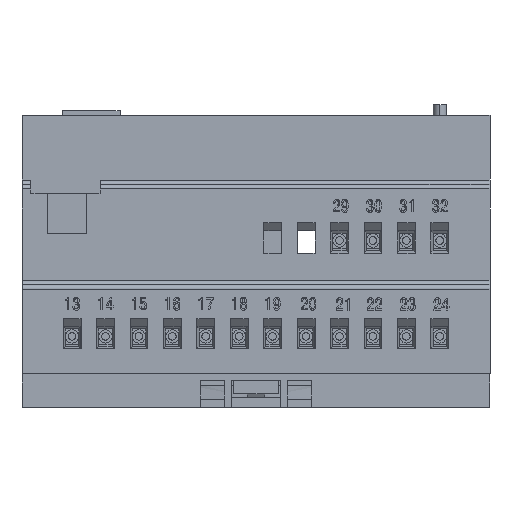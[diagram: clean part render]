
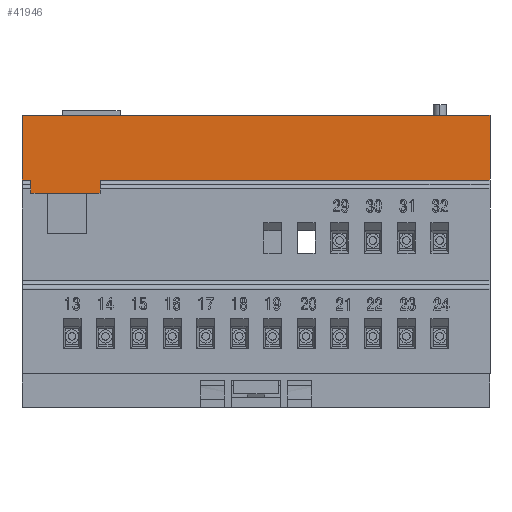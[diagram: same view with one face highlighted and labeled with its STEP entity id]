
A CAD part, front view. The second image highlights one B-rep face of the part: STEP entity #41946.
In plain terms, the highlighted planar face has unit normal (0, -1, 0) as drawn and (1, 0, 0) by its records, which use the part's own axes.
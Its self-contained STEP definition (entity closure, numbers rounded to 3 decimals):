
#4325 = ORIENTED_EDGE ( 'NONE', *, *, #8833, .T. ) ;
#4521 = CARTESIAN_POINT ( 'NONE',  ( 67.5, 44.5, -2. ) ) ;
#7913 = VERTEX_POINT ( 'NONE', #146349 ) ;
#8833 = EDGE_CURVE ( 'NONE', #22885, #210432, #190936, .T. ) ;
#16549 = CARTESIAN_POINT ( 'NONE',  ( 67.5, 40.5, -2. ) ) ;
#16672 = LINE ( 'NONE', #30494, #185029 ) ;
#17190 = CARTESIAN_POINT ( 'NONE',  ( 67.5, 40.5, -17.5 ) ) ;
#17633 = DIRECTION ( 'NONE',  ( 0., 1., 0. ) ) ;
#17674 = ORIENTED_EDGE ( 'NONE', *, *, #137974, .F. ) ;
#17923 = EDGE_CURVE ( 'NONE', #7913, #22885, #16672, .T. ) ;
#22885 = VERTEX_POINT ( 'NONE', #163978 ) ;
#27209 = VECTOR ( 'NONE', #124254, 1000. ) ;
#29744 = ORIENTED_EDGE ( 'NONE', *, *, #105498, .F. ) ;
#30494 = CARTESIAN_POINT ( 'NONE',  ( 67.5, 58., -105. ) ) ;
#32396 = LINE ( 'NONE', #59476, #27209 ) ;
#33336 = CARTESIAN_POINT ( 'NONE',  ( 67.5, 40.5, -2. ) ) ;
#35461 = AXIS2_PLACEMENT_3D ( 'NONE', #194296, #188651, #188403 ) ;
#35575 = CARTESIAN_POINT ( 'NONE',  ( 67.5, 43.5, 0. ) ) ;
#35710 = ORIENTED_EDGE ( 'NONE', *, *, #101872, .F. ) ;
#40465 = VECTOR ( 'NONE', #134846, 1000. ) ;
#41946 = ADVANCED_FACE ( 'NONE', ( #200777 ), #193842, .T. ) ;
#45566 = LINE ( 'NONE', #118526, #40465 ) ;
#49675 = CARTESIAN_POINT ( 'NONE',  ( 67.5, 43.5, -105. ) ) ;
#50523 = LINE ( 'NONE', #33336, #137213 ) ;
#50661 = EDGE_LOOP ( 'NONE', ( #17674, #35710, #76290, #4325, #182186, #29744, #86846, #121677 ) ) ;
#59476 = CARTESIAN_POINT ( 'NONE',  ( 67.5, 44.5, -17.5 ) ) ;
#60198 = VERTEX_POINT ( 'NONE', #197006 ) ;
#76290 = ORIENTED_EDGE ( 'NONE', *, *, #17923, .T. ) ;
#76686 = EDGE_CURVE ( 'NONE', #60198, #102203, #88899, .T. ) ;
#78988 = DIRECTION ( 'NONE',  ( 0., 0., 1. ) ) ;
#80138 = CARTESIAN_POINT ( 'NONE',  ( 67.5, 58., -105. ) ) ;
#86846 = ORIENTED_EDGE ( 'NONE', *, *, #76686, .T. ) ;
#88899 = LINE ( 'NONE', #4521, #132233 ) ;
#91504 = VECTOR ( 'NONE', #78988, 1000. ) ;
#101872 = EDGE_CURVE ( 'NONE', #7913, #172899, #147824, .T. ) ;
#102203 = VERTEX_POINT ( 'NONE', #16549 ) ;
#105498 = EDGE_CURVE ( 'NONE', #60198, #171649, #197886, .T. ) ;
#110468 = CARTESIAN_POINT ( 'NONE',  ( 67.5, 43.5, -17.5 ) ) ;
#118526 = CARTESIAN_POINT ( 'NONE',  ( 67.5, 58., 0. ) ) ;
#121677 = ORIENTED_EDGE ( 'NONE', *, *, #156820, .F. ) ;
#124254 = DIRECTION ( 'NONE',  ( 0., -1., 0. ) ) ;
#129145 = CARTESIAN_POINT ( 'NONE',  ( 67.5, 58., 0. ) ) ;
#132233 = VECTOR ( 'NONE', #182863, 1000. ) ;
#133856 = EDGE_CURVE ( 'NONE', #171649, #210432, #45566, .T. ) ;
#134846 = DIRECTION ( 'NONE',  ( 0., 1., 0. ) ) ;
#137213 = VECTOR ( 'NONE', #193717, 1000. ) ;
#137974 = EDGE_CURVE ( 'NONE', #172899, #149350, #32396, .T. ) ;
#146349 = CARTESIAN_POINT ( 'NONE',  ( 67.5, 43.5, -105. ) ) ;
#147824 = LINE ( 'NONE', #49675, #191212 ) ;
#149350 = VERTEX_POINT ( 'NONE', #17190 ) ;
#154477 = VECTOR ( 'NONE', #172878, 1000. ) ;
#156820 = EDGE_CURVE ( 'NONE', #149350, #102203, #50523, .T. ) ;
#163978 = CARTESIAN_POINT ( 'NONE',  ( 67.5, 58., -105. ) ) ;
#171649 = VERTEX_POINT ( 'NONE', #35575 ) ;
#172878 = DIRECTION ( 'NONE',  ( 0., 0., 1. ) ) ;
#172899 = VERTEX_POINT ( 'NONE', #110468 ) ;
#182186 = ORIENTED_EDGE ( 'NONE', *, *, #133856, .F. ) ;
#182863 = DIRECTION ( 'NONE',  ( 0., -1., 0. ) ) ;
#185029 = VECTOR ( 'NONE', #17633, 1000. ) ;
#188403 = DIRECTION ( 'NONE',  ( 0., 1., 0. ) ) ;
#188651 = DIRECTION ( 'NONE',  ( 1., 0., 0. ) ) ;
#188697 = CARTESIAN_POINT ( 'NONE',  ( 67.5, 43.5, -105. ) ) ;
#190936 = LINE ( 'NONE', #80138, #91504 ) ;
#191212 = VECTOR ( 'NONE', #197215, 1000. ) ;
#193717 = DIRECTION ( 'NONE',  ( 0., 0., 1. ) ) ;
#193842 = PLANE ( 'NONE',  #35461 ) ;
#194296 = CARTESIAN_POINT ( 'NONE',  ( 67.5, 58., -105. ) ) ;
#197006 = CARTESIAN_POINT ( 'NONE',  ( 67.5, 43.5, -2. ) ) ;
#197215 = DIRECTION ( 'NONE',  ( 0., 0., 1. ) ) ;
#197886 = LINE ( 'NONE', #188697, #154477 ) ;
#200777 = FACE_OUTER_BOUND ( 'NONE', #50661, .T. ) ;
#210432 = VERTEX_POINT ( 'NONE', #129145 ) ;
